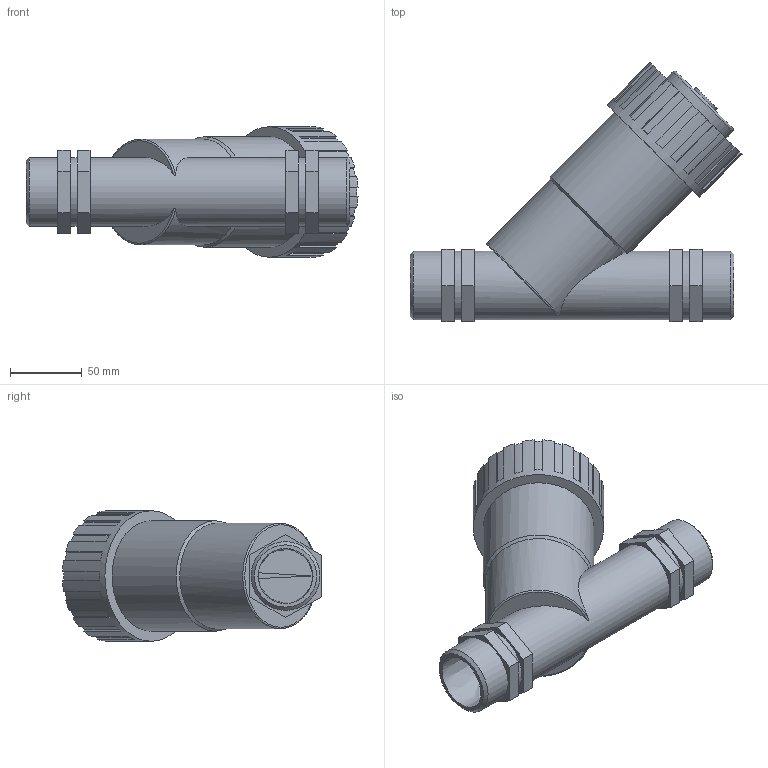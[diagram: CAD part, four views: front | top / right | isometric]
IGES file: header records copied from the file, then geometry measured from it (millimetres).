
Global section: file name: 03067188.ipt; native system: Autodesk Inventor 2015; preprocessor: unknown; author: KIM; date: 20170619.121333; units: millimetre
Bounding box: 230.57 x 179.98 x 90.67 mm (x, y, z)
Volume: 937118.2 mm3; surface area: 112931.8 mm2
Topology: 1 solids, 2 shells, 138 faces, 372 edges, 248 vertices
Faces by surface type: plane 100, cylinder 31, revolution 4, cone 3
Full cylindrical faces by diameter (mm): 20.925 x1, 47.803 x5, 58.59 x1, 76.725 x1, 90.675 x1
